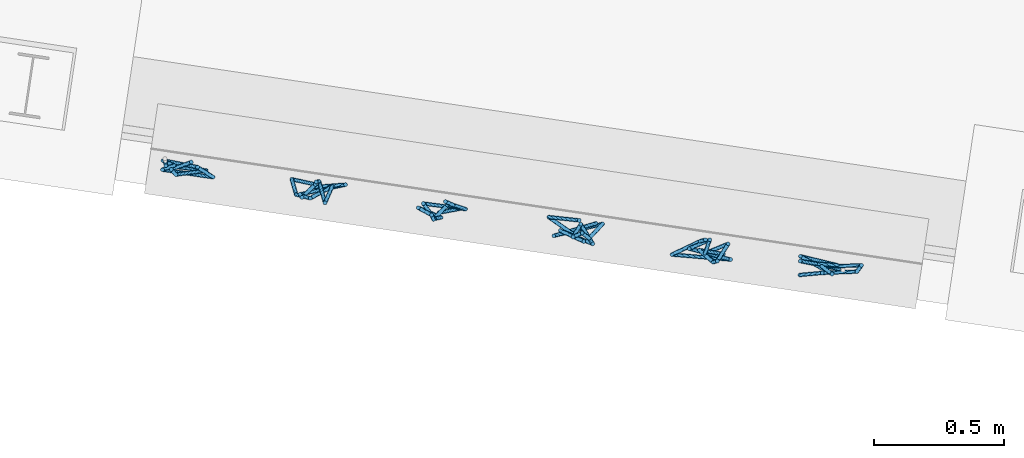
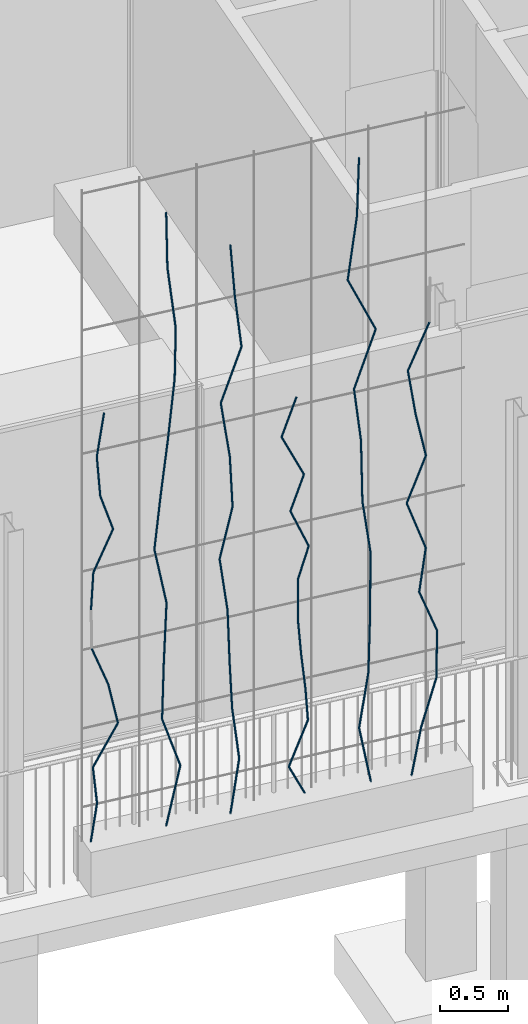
# One storey, part 117 of 143: 64 members, 1 element without a shape of its own.
"""IFC4 building model written with IfcOpenShell, lengths in metres."""

from ifc_helpers import new_model, si_unit, direction, frame, origin_with_axes, place, context, subcontext, project, spatial, circle, extrude, material, material_profile, profile_set, profile_usage, type_object, element, aggregate, save


model = new_model("IFC4")

# Units and contexts
model_context = context("Model", 3, precision=1e-05, world=origin_with_axes(), true_north=direction((0.0, 1.0)))
body_context = subcontext(model_context, "Body", "Model", "MODEL_VIEW")
ifc_project = project(units=[si_unit("VOLUMEUNIT", "CUBIC_METRE"), si_unit("LENGTHUNIT", "METRE"), si_unit("AREAUNIT", "SQUARE_METRE")], contexts=[model_context])

# Site, building, storey
site_placement = place(None, origin_with_axes())
site = spatial("IfcSite", under=ifc_project, at=site_placement, Name="Lares · Rua das Mercês · artigo 4771")
building_placement = place(site_placement, frame((15.0, 9.7, 15.8), z_axis=(0.0, 0.0, 1.0), x_axis=(0.989015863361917, -0.147809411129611, 0.0)))
building = spatial("IfcBuilding", under=site, at=building_placement, Name="Casa Sobreposta")
storey_placement = place(building_placement, origin_with_axes())
storey = spatial("IfcBuildingStorey", under=building, at=storey_placement, Name="00 · Habitação e estacionamento", Elevation=15.8)

# Assembly, members
assembly_placement = place(storey_placement, origin_with_axes())
assembly = element("IfcElementAssembly", 1, at=assembly_placement, inside=storey, Name="Fachada sul e pátio · estrutura e trepadeiras", ObjectType="LIVING_SHADE_TRELLIS", PredefinedType="USERDEFINED")
ifc_material = material(Name="Ramos de trepadeiras", Category="wood")
ifc_material_profile = material_profile(ifc_material, circle(Radius=0.0075))
ifc_profile_set = profile_set([ifc_material_profile], Name="D0.015")
ifc_profile_usage_1 = profile_usage(ifc_profile_set)
member_type = type_object("IfcMemberType", Name="D0.015 / vine_wood", PredefinedType="NOTDEFINED", material=ifc_profile_set)
member_1_placement = place(assembly_placement, frame((4.55197468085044, -1.64925982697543, 0.35), z_axis=(0.129792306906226, -0.0339326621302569, 0.990960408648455), x_axis=(-0.25293691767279, -0.967482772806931, 0.0)))
member_1 = element("IfcMember", 2, at=member_1_placement, type_object=member_type, material=ifc_profile_usage_1, Name="Trepadeiras · ramo", context=body_context, shape_type="SweptSolid", body=[
    extrude(circle(Radius=0.0075), origin_with_axes(), (0.0, 0.0, 1.0), 0.347845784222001),
])
ifc_profile_usage_2 = profile_usage(ifc_profile_set)
member_2_placement = place(assembly_placement, frame((4.59712238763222, -1.66106316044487, 0.694701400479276), z_axis=(-0.119928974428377, -0.0651007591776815, 0.990645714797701), x_axis=(-0.477071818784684, 0.878864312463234, 6.29674832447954e-18)))
member_2 = element("IfcMember", 3, at=member_2_placement, type_object=member_type, material=ifc_profile_usage_2, Name="Trepadeiras · ramo", context=body_context, shape_type="SweptSolid", body=[
    extrude(circle(Radius=0.0075), origin_with_axes(), (0.0, 0.0, 1.0), 0.347956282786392),
])
ifc_profile_usage_3 = profile_usage(ifc_profile_set)
member_3_placement = place(assembly_placement, frame((4.55539234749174, -1.68371537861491, 1.03940280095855), z_axis=(0.495642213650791, 0.000664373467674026, 0.86852654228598), x_axis=(0.00134042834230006, -0.999999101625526, 0.0)))
member_3 = element("IfcMember", 4, at=member_3_placement, type_object=member_type, material=ifc_profile_usage_3, Name="Trepadeiras · ramo", context=body_context, shape_type="SweptSolid", body=[
    extrude(circle(Radius=0.0075), origin_with_axes(), (0.0, 0.0, 1.0), 0.396880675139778),
])
ifc_profile_usage_4 = profile_usage(ifc_profile_set)
member_4_placement = place(assembly_placement, frame((4.75210316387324, -1.68345170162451, 1.38410420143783), z_axis=(-0.183626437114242, 0.0831823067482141, 0.97947028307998), x_axis=(0.41263397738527, 0.910896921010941, 0.0)))
member_4 = element("IfcMember", 5, at=member_4_placement, type_object=member_type, material=ifc_profile_usage_4, Name="Trepadeiras · ramo", context=body_context, shape_type="SweptSolid", body=[
    extrude(circle(Radius=0.0075), origin_with_axes(), (0.0, 0.0, 1.0), 0.351926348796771),
])
ifc_profile_usage_5 = profile_usage(ifc_profile_set)
member_5_placement = place(assembly_placement, frame((4.68748018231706, -1.65417765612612, 1.72880560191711), z_axis=(-0.345167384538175, 0.0158491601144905, 0.938407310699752), x_axis=(0.0458689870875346, 0.998947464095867, -2.35561623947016e-18)))
member_5 = element("IfcMember", 6, at=member_5_placement, type_object=member_type, material=ifc_profile_usage_5, Name="Trepadeiras · ramo", context=body_context, shape_type="SweptSolid", body=[
    extrude(circle(Radius=0.0075), origin_with_axes(), (0.0, 0.0, 1.0), 0.367325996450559),
])
ifc_profile_usage_6 = profile_usage(ifc_profile_set)
member_6_placement = place(assembly_placement, frame((4.55834222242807, -1.64024720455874, 2.41820840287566), z_axis=(0.0218448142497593, -0.0762401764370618, 0.996850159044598), x_axis=(-0.961317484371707, -0.275442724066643, 0.0)))
member_6 = element("IfcMember", 7, at=member_6_placement, type_object=member_type, material=ifc_profile_usage_6, Name="Trepadeiras · ramo", context=body_context, shape_type="SweptSolid", body=[
    extrude(circle(Radius=0.0075), origin_with_axes(), (0.0, 0.0, 1.0), 0.345790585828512),
])
ifc_profile_usage_7 = profile_usage(ifc_profile_set)
member_7_placement = place(assembly_placement, frame((4.56589595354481, -1.66661033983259, 2.76290980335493), z_axis=(0.414696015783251, 0.012751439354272, 0.909870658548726), x_axis=(0.0307343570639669, -0.999527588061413, 0.0)))
member_7 = element("IfcMember", 8, at=member_7_placement, type_object=member_type, material=ifc_profile_usage_7, Name="Trepadeiras · ramo", context=body_context, shape_type="SweptSolid", body=[
    extrude(circle(Radius=0.0075), origin_with_axes(), (0.0, 0.0, 1.0), 0.378846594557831),
])
ifc_profile_usage_8 = profile_usage(ifc_profile_set)
member_8_placement = place(assembly_placement, frame((4.72300212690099, -1.66177950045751, 3.10761120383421), z_axis=(-0.312467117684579, -0.0908269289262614, 0.945576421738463), x_axis=(-0.279123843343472, 0.960255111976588, 0.0)))
member_8 = element("IfcMember", 9, at=member_8_placement, type_object=member_type, material=ifc_profile_usage_8, Name="Trepadeiras · ramo", context=body_context, shape_type="SweptSolid", body=[
    extrude(circle(Radius=0.0075), origin_with_axes(), (0.0, 0.0, 1.0), 0.364541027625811),
])
ifc_profile_usage_9 = profile_usage(ifc_profile_set)
member_9_placement = place(assembly_placement, frame((4.60909504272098, -1.69488964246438, 3.45231260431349), z_axis=(-0.0585484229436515, 0.0497208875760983, 0.997045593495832), x_axis=(0.647306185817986, 0.762230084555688, 0.0)))
member_9 = element("IfcMember", 10, at=member_9_placement, type_object=member_type, material=ifc_profile_usage_9, Name="Trepadeiras · ramo", context=body_context, shape_type="SweptSolid", body=[
    extrude(circle(Radius=0.0075), origin_with_axes(), (0.0, 0.0, 1.0), 0.345722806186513),
])
ifc_profile_usage_10 = profile_usage(ifc_profile_set)
member_10_placement = place(assembly_placement, frame((4.58885351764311, -1.67769999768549, 3.79701400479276), z_axis=(0.203496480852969, 0.111178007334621, 0.97274284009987), x_axis=(0.479450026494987, -0.877569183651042, 0.0)))
member_10 = element("IfcMember", 11, at=member_10_placement, type_object=member_type, material=ifc_profile_usage_10, Name="Trepadeiras · ramo", context=body_context, shape_type="SweptSolid", body=[
    extrude(circle(Radius=0.0075), origin_with_axes(), (0.0, 0.0, 1.0), 0.354360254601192),
])
ifc_profile_usage_11 = profile_usage(ifc_profile_set)
member_11_placement = place(assembly_placement, frame((5.13738922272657, -1.66440915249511, 0.35), z_axis=(0.240432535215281, 0.0544142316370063, 0.96913945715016), x_axis=(0.22073565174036, -0.975333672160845, 0.0)))
member_11 = element("IfcMember", 12, at=member_11_placement, type_object=member_type, material=ifc_profile_usage_11, Name="Trepadeiras · ramo", context=body_context, shape_type="SweptSolid", body=[
    extrude(circle(Radius=0.0075), origin_with_axes(), (0.0, 0.0, 1.0), 0.511992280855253),
])
ifc_profile_usage_12 = profile_usage(ifc_profile_set)
member_12_placement = place(assembly_placement, frame((5.26048882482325, -1.63654948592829, 0.846191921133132), z_axis=(-0.318008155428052, -0.119200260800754, 0.940564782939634), x_axis=(-0.350987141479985, 0.936380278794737, 0.0)))
member_12 = element("IfcMember", 13, at=member_12_placement, type_object=member_type, material=ifc_profile_usage_12, Name="Trepadeiras · ramo", context=body_context, shape_type="SweptSolid", body=[
    extrude(circle(Radius=0.0075), origin_with_axes(), (0.0, 0.0, 1.0), 0.527546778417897),
])
ifc_profile_usage_13 = profile_usage(ifc_profile_set)
member_13_placement = place(assembly_placement, frame((5.09272464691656, -1.6994331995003, 1.34238384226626), z_axis=(0.0181040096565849, -0.0206847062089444, 0.999622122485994), x_axis=(0.999836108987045, 0.000374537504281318, -0.0181001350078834)))
member_13 = element("IfcMember", 14, at=member_13_placement, type_object=member_type, material=ifc_profile_usage_13, Name="Trepadeiras · ramo", context=body_context, shape_type="SweptSolid", body=[
    extrude(circle(Radius=0.0075), origin_with_axes(), (0.0, 0.0, 1.0), 0.49637949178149),
])
ifc_profile_usage_14 = profile_usage(ifc_profile_set)
member_14_placement = place(assembly_placement, frame((5.10171110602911, -1.70970066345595, 1.8385757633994), z_axis=(0.0881972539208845, 0.113613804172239, 0.989602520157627), x_axis=(0.789921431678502, -0.613208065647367, 0.0)))
member_14 = element("IfcMember", 15, at=member_14_placement, type_object=member_type, material=ifc_profile_usage_14, Name="Trepadeiras · ramo", context=body_context, shape_type="SweptSolid", body=[
    extrude(circle(Radius=0.0075), origin_with_axes(), (0.0, 0.0, 1.0), 0.5014052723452),
])
ifc_profile_usage_15 = profile_usage(ifc_profile_set)
member_15_placement = place(assembly_placement, frame((5.14593367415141, -1.65273410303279, 2.33476768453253), z_axis=(-0.18412719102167, 0.0119105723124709, 0.982830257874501), x_axis=(0.0645517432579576, 0.997914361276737, 0.0)))
member_15 = element("IfcMember", 16, at=member_15_placement, type_object=member_type, material=ifc_profile_usage_15, Name="Trepadeiras · ramo", context=body_context, shape_type="SweptSolid", body=[
    extrude(circle(Radius=0.0075), origin_with_axes(), (0.0, 0.0, 1.0), 0.50486024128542),
])
ifc_profile_usage_16 = profile_usage(ifc_profile_set)
member_16_placement = place(assembly_placement, frame((5.052975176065, -1.64672092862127, 2.83095960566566), z_axis=(0.0509410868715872, -0.111318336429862, 0.992478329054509), x_axis=(-0.909311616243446, -0.416115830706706, 0.0)))
member_16 = element("IfcMember", 17, at=member_16_placement, type_object=member_type, material=ifc_profile_usage_16, Name="Trepadeiras · ramo", context=body_context, shape_type="SweptSolid", body=[
    extrude(circle(Radius=0.0075), origin_with_axes(), (0.0, 0.0, 1.0), 0.499952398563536),
])
ifc_profile_usage_17 = profile_usage(ifc_profile_set)
member_17_placement = place(assembly_placement, frame((5.07844329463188, -1.70237479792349, 3.32715152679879), z_axis=(0.111662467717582, -0.0113171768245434, 0.993681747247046), x_axis=(-0.100835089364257, -0.994903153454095, 0.0)))
member_17 = element("IfcMember", 18, at=member_17_placement, type_object=member_type, material=ifc_profile_usage_17, Name="Trepadeiras · ramo", context=body_context, shape_type="SweptSolid", body=[
    extrude(circle(Radius=0.0075), origin_with_axes(), (0.0, 0.0, 1.0), 0.499346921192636),
])
ifc_profile_usage_18 = profile_usage(ifc_profile_set)
member_18_placement = place(assembly_placement, frame((5.13420160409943, -1.70802599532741, 3.82334344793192), z_axis=(0.150889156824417, 0.111712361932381, 0.982218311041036), x_axis=(0.595030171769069, -0.803703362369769, 0.0)))
member_18 = element("IfcMember", 19, at=member_18_placement, type_object=member_type, material=ifc_profile_usage_18, Name="Trepadeiras · ramo", context=body_context, shape_type="SweptSolid", body=[
    extrude(circle(Radius=0.0075), origin_with_axes(), (0.0, 0.0, 1.0), 0.505174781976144),
])
ifc_profile_usage_19 = profile_usage(ifc_profile_set)
member_19_placement = place(assembly_placement, frame((5.21042700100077, -1.65159172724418, 4.31953536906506), z_axis=(-0.0354680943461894, -0.131438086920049, 0.99068968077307), x_axis=(-0.965466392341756, 0.260527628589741, 0.0)))
member_19 = element("IfcMember", 20, at=member_19_placement, type_object=member_type, material=ifc_profile_usage_19, Name="Trepadeiras · ramo", context=body_context, shape_type="SweptSolid", body=[
    extrude(circle(Radius=0.0075), origin_with_axes(), (0.0, 0.0, 1.0), 0.500855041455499),
])
ifc_profile_usage_20 = profile_usage(ifc_profile_set)
member_20_placement = place(assembly_placement, frame((5.19266262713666, -1.71742315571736, 4.81572729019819), z_axis=(-0.0686747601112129, 0.155818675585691, 0.985395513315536), x_axis=(0.915066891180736, 0.403302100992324, 0.0)))
member_20 = element("IfcMember", 21, at=member_20_placement, type_object=member_type, material=ifc_profile_usage_20, Name="Trepadeiras · ramo", context=body_context, shape_type="SweptSolid", body=[
    extrude(circle(Radius=0.0075), origin_with_axes(), (0.0, 0.0, 1.0), 0.503545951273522),
])
ifc_profile_usage_21 = profile_usage(ifc_profile_set)
member_21_placement = place(assembly_placement, frame((5.15808172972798, -1.63896129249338, 5.31191921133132), z_axis=(-0.0221663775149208, -0.00749263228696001, 0.999726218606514), x_axis=(0.999754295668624, -0.000166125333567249, 0.0221657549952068)))
member_21 = element("IfcMember", 22, at=member_21_placement, type_object=member_type, material=ifc_profile_usage_21, Name="Trepadeiras · ramo", context=body_context, shape_type="SweptSolid", body=[
    extrude(circle(Radius=0.0075), origin_with_axes(), (0.0, 0.0, 1.0), 0.496327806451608),
])
ifc_profile_usage_22 = profile_usage(ifc_profile_set)
member_22_placement = place(assembly_placement, frame((5.63220136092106, -1.68990743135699, 0.35), z_axis=(0.173486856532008, 0.0605084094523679, 0.982975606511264), x_axis=(0.32932236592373, -0.944217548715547, 0.0)))
member_22 = element("IfcMember", 23, at=member_22_placement, type_object=member_type, material=ifc_profile_usage_22, Name="Trepadeiras · ramo", context=body_context, shape_type="SweptSolid", body=[
    extrude(circle(Radius=0.0075), origin_with_axes(), (0.0, 0.0, 1.0), 0.466118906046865),
])
ifc_profile_usage_23 = profile_usage(ifc_profile_set)
member_23_placement = place(assembly_placement, frame((5.71306686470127, -1.66170331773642, 0.808183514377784), z_axis=(-0.115708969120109, 0.0131407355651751, 0.993196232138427), x_axis=(0.1128417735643, 0.993612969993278, 0.0)))
member_23 = element("IfcMember", 24, at=member_23_placement, type_object=member_type, material=ifc_profile_usage_23, Name="Trepadeiras · ramo", context=body_context, shape_type="SweptSolid", body=[
    extrude(circle(Radius=0.0075), origin_with_axes(), (0.0, 0.0, 1.0), 0.461322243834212),
])
ifc_profile_usage_24 = profile_usage(ifc_profile_set)
member_24_placement = place(assembly_placement, frame((5.65968774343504, -1.65564120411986, 1.26636702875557), z_axis=(-0.0956717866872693, -0.135853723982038, 0.986098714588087), x_axis=(-0.817605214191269, 0.575779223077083, 0.0)))
member_24 = element("IfcMember", 25, at=member_24_placement, type_object=member_type, material=ifc_profile_usage_24, Name="Trepadeiras · ramo", context=body_context, shape_type="SweptSolid", body=[
    extrude(circle(Radius=0.0075), origin_with_axes(), (0.0, 0.0, 1.0), 0.464642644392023),
])
ifc_profile_usage_25 = profile_usage(ifc_profile_set)
member_25_placement = place(assembly_placement, frame((5.61523455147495, -1.71876463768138, 1.72455054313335), z_axis=(-0.0217451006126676, 0.0344773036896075, 0.999168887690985), x_axis=(0.999763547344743, 0.000749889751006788, 0.0217321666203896)))
member_25 = element("IfcMember", 26, at=member_25_placement, type_object=member_type, material=ifc_profile_usage_25, Name="Trepadeiras · ramo", context=body_context, shape_type="SweptSolid", body=[
    extrude(circle(Radius=0.0075), origin_with_axes(), (0.0, 0.0, 1.0), 0.458564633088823),
])
ifc_profile_usage_26 = profile_usage(ifc_profile_set)
member_26_placement = place(assembly_placement, frame((5.60526301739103, -1.70295456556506, 2.18273405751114), z_axis=(-0.118138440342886, 0.0429210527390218, 0.992069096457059), x_axis=(0.341473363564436, 0.939891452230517, 0.0)))
member_26 = element("IfcMember", 27, at=member_26_placement, type_object=member_type, material=ifc_profile_usage_26, Name="Trepadeiras · ramo", context=body_context, shape_type="SweptSolid", body=[
    extrude(circle(Radius=0.0075), origin_with_axes(), (0.0, 0.0, 1.0), 0.461846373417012),
])
ifc_profile_usage_27 = profile_usage(ifc_profile_set)
member_27_placement = place(assembly_placement, frame((5.55070120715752, -1.6831316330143, 2.64091757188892), z_axis=(0.19709303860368, -0.0505499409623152, 0.979080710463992), x_axis=(-0.248436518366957, -0.968648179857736, 0.0)))
member_27 = element("IfcMember", 28, at=member_27_placement, type_object=member_type, material=ifc_profile_usage_27, Name="Trepadeiras · ramo", context=body_context, shape_type="SweptSolid", body=[
    extrude(circle(Radius=0.0075), origin_with_axes(), (0.0, 0.0, 1.0), 0.467973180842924),
])
ifc_profile_usage_28 = profile_usage(ifc_profile_set)
member_28_placement = place(assembly_placement, frame((5.64293546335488, -1.70678764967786, 3.0991010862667), z_axis=(-0.054053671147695, -0.0197998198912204, 0.998341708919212), x_axis=(-0.343950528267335, 0.938987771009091, 0.0)))
member_28 = element("IfcMember", 29, at=member_28_placement, type_object=member_type, material=ifc_profile_usage_28, Name="Trepadeiras · ramo", context=body_context, shape_type="SweptSolid", body=[
    extrude(circle(Radius=0.0075), origin_with_axes(), (0.0, 0.0, 1.0), 0.458944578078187),
])
ifc_profile_usage_29 = profile_usage(ifc_profile_set)
member_29_placement = place(assembly_placement, frame((5.61812782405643, -1.71587466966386, 3.55728460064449), z_axis=(-0.109531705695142, 0.111331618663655, 0.987728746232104), x_axis=(0.712845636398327, 0.701320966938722, 0.0)))
member_29 = element("IfcMember", 30, at=member_29_placement, type_object=member_type, material=ifc_profile_usage_29, Name="Trepadeiras · ramo", context=body_context, shape_type="SweptSolid", body=[
    extrude(circle(Radius=0.0075), origin_with_axes(), (0.0, 0.0, 1.0), 0.463875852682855),
])
ifc_profile_usage_30 = profile_usage(ifc_profile_set)
member_30_placement = place(assembly_placement, frame((5.56731871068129, -1.6642306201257, 4.01546811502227), z_axis=(0.336572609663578, 0.00606468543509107, 0.941637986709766), x_axis=(0.0180160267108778, -0.999837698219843, 0.0)))
member_30 = element("IfcMember", 31, at=member_30_placement, type_object=member_type, material=ifc_profile_usage_30, Name="Trepadeiras · ramo", context=body_context, shape_type="SweptSolid", body=[
    extrude(circle(Radius=0.0075), origin_with_axes(), (0.0, 0.0, 1.0), 0.48658138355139),
])
ifc_profile_usage_31 = profile_usage(ifc_profile_set)
member_31_placement = place(assembly_placement, frame((5.73108867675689, -1.66127965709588, 4.47365162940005), z_axis=(-0.106013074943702, 0.0180386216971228, 0.994201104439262), x_axis=(0.167743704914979, 0.985830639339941, 0.0)))
member_31 = element("IfcMember", 32, at=member_31_placement, type_object=member_type, material=ifc_profile_usage_31, Name="Trepadeiras · ramo", context=body_context, shape_type="SweptSolid", body=[
    extrude(circle(Radius=0.0075), origin_with_axes(), (0.0, 0.0, 1.0), 0.460855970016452),
])
ifc_profile_usage_32 = profile_usage(ifc_profile_set)
member_32_placement = place(assembly_placement, frame((5.68223191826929, -1.6529664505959, 4.93183514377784), z_axis=(-0.0697881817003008, 0.0188845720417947, 0.997383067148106), x_axis=(0.261204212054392, 0.965283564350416, 0.0)))
member_32 = element("IfcMember", 33, at=member_32_placement, type_object=member_type, material=ifc_profile_usage_32, Name="Trepadeiras · ramo", context=body_context, shape_type="SweptSolid", body=[
    extrude(circle(Radius=0.0075), origin_with_axes(), (0.0, 0.0, 1.0), 0.459385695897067),
])
ifc_profile_usage_33 = profile_usage(ifc_profile_set)
member_33_placement = place(assembly_placement, frame((6.23679718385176, -1.64103048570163, 0.35), z_axis=(-0.42416376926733, -0.196770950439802, 0.883949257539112), x_axis=(-0.420825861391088, 0.90714144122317, 0.0)))
member_33 = element("IfcMember", 34, at=member_33_placement, type_object=member_type, material=ifc_profile_usage_33, Name="Trepadeiras · ramo", context=body_context, shape_type="SweptSolid", body=[
    extrude(circle(Radius=0.0075), origin_with_axes(), (0.0, 0.0, 1.0), 0.364794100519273),
])
ifc_profile_usage_34 = profile_usage(ifc_profile_set)
member_34_placement = place(assembly_placement, frame((6.08206474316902, -1.71281136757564, 0.67245947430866), z_axis=(0.475917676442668, 0.19443061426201, 0.857729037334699), x_axis=(0.378194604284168, -0.925726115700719, 0.0)))
member_34 = element("IfcMember", 35, at=member_34_placement, type_object=member_type, material=ifc_profile_usage_34, Name="Trepadeiras · ramo", context=body_context, shape_type="SweptSolid", body=[
    extrude(circle(Radius=0.0075), origin_with_axes(), (0.0, 0.0, 1.0), 0.375945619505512),
])
ifc_profile_usage_35 = profile_usage(ifc_profile_set)
member_35_placement = place(assembly_placement, frame((6.26098390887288, -1.63971602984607, 0.994918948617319), z_axis=(-0.130658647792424, -0.188661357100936, 0.973311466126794), x_axis=(-0.822096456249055, 0.569348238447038, 0.0)))
member_35 = element("IfcMember", 36, at=member_35_placement, type_object=member_type, material=ifc_profile_usage_35, Name="Trepadeiras · ramo", context=body_context, shape_type="SweptSolid", body=[
    extrude(circle(Radius=0.0075), origin_with_axes(), (0.0, 0.0, 1.0), 0.331301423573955),
])
ifc_profile_usage_36 = profile_usage(ifc_profile_set)
member_36_placement = place(assembly_placement, frame((6.21769651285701, -1.702219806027, 1.31737842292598), z_axis=(-0.0893962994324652, 0.0502500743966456, 0.994727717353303), x_axis=(0.489999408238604, 0.871722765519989, 0.0)))
member_36 = element("IfcMember", 37, at=member_36_placement, type_object=member_type, material=ifc_profile_usage_36, Name="Trepadeiras · ramo", context=body_context, shape_type="SweptSolid", body=[
    extrude(circle(Radius=0.0075), origin_with_axes(), (0.0, 0.0, 1.0), 0.324168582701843),
])
ifc_profile_usage_37 = profile_usage(ifc_profile_set)
member_37_placement = place(assembly_placement, frame((6.18871704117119, -1.68593031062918, 1.63983789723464), z_axis=(-0.100606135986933, -0.0629655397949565, 0.992931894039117), x_axis=(-0.53052417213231, 0.847669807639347, 0.0)))
member_37 = element("IfcMember", 38, at=member_37_placement, type_object=member_type, material=ifc_profile_usage_37, Name="Trepadeiras · ramo", context=body_context, shape_type="SweptSolid", body=[
    extrude(circle(Radius=0.0075), origin_with_axes(), (0.0, 0.0, 1.0), 0.324754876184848),
])
ifc_profile_usage_38 = profile_usage(ifc_profile_set)
member_38_placement = place(assembly_placement, frame((6.15604470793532, -1.70637867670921, 1.9622973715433), z_axis=(0.068330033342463, 0.161303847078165, 0.984536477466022), x_axis=(0.920790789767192, -0.390056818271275, 0.0)))
member_38 = element("IfcMember", 39, at=member_38_placement, type_object=member_type, material=ifc_profile_usage_38, Name="Trepadeiras · ramo", context=body_context, shape_type="SweptSolid", body=[
    extrude(circle(Radius=0.0075), origin_with_axes(), (0.0, 0.0, 1.0), 0.327524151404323),
])
ifc_profile_usage_39 = profile_usage(ifc_profile_set)
member_39_placement = place(assembly_placement, frame((6.17842444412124, -1.65354777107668, 2.28475684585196), z_axis=(0.170380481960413, -0.202410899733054, 0.964365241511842), x_axis=(-0.765043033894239, -0.64397915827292, 0.0)))
member_39 = element("IfcMember", 40, at=member_39_placement, type_object=member_type, material=ifc_profile_usage_39, Name="Trepadeiras · ramo", context=body_context, shape_type="SweptSolid", body=[
    extrude(circle(Radius=0.0075), origin_with_axes(), (0.0, 0.0, 1.0), 0.334374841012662),
])
ifc_profile_usage_40 = profile_usage(ifc_profile_set)
member_40_placement = place(assembly_placement, frame((6.23539539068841, -1.72122888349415, 2.60721632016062), z_axis=(-0.376155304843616, 0.0917282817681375, 0.922004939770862), x_axis=(0.236914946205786, 0.971530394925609, 0.0)))
member_40 = element("IfcMember", 41, at=member_40_placement, type_object=member_type, material=ifc_profile_usage_40, Name="Trepadeiras · ramo", context=body_context, shape_type="SweptSolid", body=[
    extrude(circle(Radius=0.0075), origin_with_axes(), (0.0, 0.0, 1.0), 0.349737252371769),
])
ifc_profile_usage_41 = profile_usage(ifc_profile_set)
member_41_placement = place(assembly_placement, frame((6.10383986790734, -1.68914808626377, 2.92967579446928), z_axis=(0.282893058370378, -0.0830680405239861, 0.955547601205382), x_axis=(-0.281742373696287, -0.959490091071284, 0.0)))
member_41 = element("IfcMember", 42, at=member_41_placement, type_object=member_type, material=ifc_profile_usage_41, Name="Trepadeiras · ramo", context=body_context, shape_type="SweptSolid", body=[
    extrude(circle(Radius=0.0075), origin_with_axes(), (0.0, 0.0, 1.0), 0.337460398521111),
])
ifc_profile_usage_42 = profile_usage(ifc_profile_set)
member_42_placement = place(assembly_placement, frame((6.19930507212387, -1.71718026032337, 3.25213526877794), z_axis=(-0.406099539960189, 0.201123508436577, 0.891421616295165), x_axis=(0.443809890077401, 0.896120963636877, 0.0)))
member_42 = element("IfcMember", 43, at=member_42_placement, type_object=member_type, material=ifc_profile_usage_42, Name="Trepadeiras · ramo", context=body_context, shape_type="SweptSolid", body=[
    extrude(circle(Radius=0.0075), origin_with_axes(), (0.0, 0.0, 1.0), 0.361736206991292),
])
ifc_profile_usage_43 = profile_usage(ifc_profile_set)
member_43_placement = place(assembly_placement, frame((6.05240416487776, -1.64442660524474, 3.5745947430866), z_axis=(0.344211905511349, 0.0140146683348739, 0.938787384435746), x_axis=(0.0406815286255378, -0.999172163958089, 0.0)))
member_43 = element("IfcMember", 44, at=member_43_placement, type_object=member_type, material=ifc_profile_usage_43, Name="Trepadeiras · ramo", context=body_context, shape_type="SweptSolid", body=[
    extrude(circle(Radius=0.0075), origin_with_axes(), (0.0, 0.0, 1.0), 0.343485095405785),
])
ifc_profile_usage_44 = profile_usage(ifc_profile_set)
member_44_placement = place(assembly_placement, frame((6.73808430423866, -1.68561583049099, 0.35), z_axis=(-0.181547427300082, 0.00211914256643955, 0.983379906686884), x_axis=(0.0116718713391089, 0.999931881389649, 0.0)))
member_44 = element("IfcMember", 45, at=member_44_placement, type_object=member_type, material=ifc_profile_usage_44, Name="Trepadeiras · ramo", context=body_context, shape_type="SweptSolid", body=[
    extrude(circle(Radius=0.0075), origin_with_axes(), (0.0, 0.0, 1.0), 0.513770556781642),
])
ifc_profile_usage_45 = profile_usage(ifc_profile_set)
member_45_placement = place(assembly_placement, frame((6.64481058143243, -1.68452707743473, 0.8552316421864), z_axis=(0.114898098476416, -0.0745573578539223, 0.990575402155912), x_axis=(-0.544339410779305, -0.838865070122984, -1.2545762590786e-17)))
member_45 = element("IfcMember", 46, at=member_45_placement, type_object=member_type, material=ifc_profile_usage_45, Name="Trepadeiras · ramo", context=body_context, shape_type="SweptSolid", body=[
    extrude(circle(Radius=0.0075), origin_with_axes(), (0.0, 0.0, 1.0), 0.510038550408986),
])
ifc_profile_usage_46 = profile_usage(ifc_profile_set)
member_46_placement = place(assembly_placement, frame((6.70341304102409, -1.72255420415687, 1.3604632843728), z_axis=(0.0306536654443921, 0.0133643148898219, 0.999440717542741), x_axis=(0.999530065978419, -0.000409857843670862, -0.0306509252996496)))
member_46 = element("IfcMember", 47, at=member_46_placement, type_object=member_type, material=ifc_profile_usage_46, Name="Trepadeiras · ramo", context=body_context, shape_type="SweptSolid", body=[
    extrude(circle(Radius=0.0075), origin_with_axes(), (0.0, 0.0, 1.0), 0.505514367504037),
])
ifc_profile_usage_47 = profile_usage(ifc_profile_set)
member_47_placement = place(assembly_placement, frame((6.71890890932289, -1.71579835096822, 1.8656949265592), z_axis=(0.0613470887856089, 0.139942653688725, 0.988257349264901), x_axis=(0.915863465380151, -0.40148986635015, -1.12196920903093e-17)))
member_47 = element("IfcMember", 48, at=member_47_placement, type_object=member_type, material=ifc_profile_usage_47, Name="Trepadeiras · ramo", context=body_context, shape_type="SweptSolid", body=[
    extrude(circle(Radius=0.0075), origin_with_axes(), (0.0, 0.0, 1.0), 0.511234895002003),
])
ifc_profile_usage_48 = profile_usage(ifc_profile_set)
member_48_placement = place(assembly_placement, frame((6.75027168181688, -1.64425478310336, 2.3709265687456), z_axis=(-0.160372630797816, -0.0941871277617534, 0.982552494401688), x_axis=(-0.506421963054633, 0.862285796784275, 0.0)))
member_48 = element("IfcMember", 49, at=member_48_placement, type_object=member_type, material=ifc_profile_usage_48, Name="Trepadeiras · ramo", context=body_context, shape_type="SweptSolid", body=[
    extrude(circle(Radius=0.0075), origin_with_axes(), (0.0, 0.0, 1.0), 0.514203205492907),
])
ifc_profile_usage_49 = profile_usage(ifc_profile_set)
member_49_placement = place(assembly_placement, frame((6.66780756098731, -1.69268610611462, 2.876158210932), z_axis=(0.0197044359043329, 0.105077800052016, 0.994268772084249), x_axis=(0.982868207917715, -0.18430975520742, 0.0)))
member_49 = element("IfcMember", 50, at=member_49_placement, type_object=member_type, material=ifc_profile_usage_49, Name="Trepadeiras · ramo", context=body_context, shape_type="SweptSolid", body=[
    extrude(circle(Radius=0.0075), origin_with_axes(), (0.0, 0.0, 1.0), 0.508143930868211),
])
ifc_profile_usage_50 = profile_usage(ifc_profile_set)
member_50_placement = place(assembly_placement, frame((6.67782025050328, -1.63929145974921, 3.3813898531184), z_axis=(-0.141774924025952, -0.0883735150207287, 0.985946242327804), x_axis=(-0.528983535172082, 0.848632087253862, 0.0)))
member_50 = element("IfcMember", 51, at=member_50_placement, type_object=member_type, material=ifc_profile_usage_50, Name="Trepadeiras · ramo", context=body_context, shape_type="SweptSolid", body=[
    extrude(circle(Radius=0.0075), origin_with_axes(), (0.0, 0.0, 1.0), 0.512433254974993),
])
ifc_profile_usage_51 = profile_usage(ifc_profile_set)
member_51_placement = place(assembly_placement, frame((6.60517006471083, -1.68457698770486, 3.8866214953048), z_axis=(0.307758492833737, -0.0338588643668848, 0.950861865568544), x_axis=(-0.109357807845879, -0.99400244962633, 0.0)))
member_51 = element("IfcMember", 52, at=member_51_placement, type_object=member_type, material=ifc_profile_usage_51, Name="Trepadeiras · ramo", context=body_context, shape_type="SweptSolid", body=[
    extrude(circle(Radius=0.0075), origin_with_axes(), (0.0, 0.0, 1.0), 0.531340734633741),
])
ifc_profile_usage_52 = profile_usage(ifc_profile_set)
member_52_placement = place(assembly_placement, frame((6.76869468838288, -1.70256758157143, 4.3918531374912), z_axis=(-0.408006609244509, -0.0258958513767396, 0.91261164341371), x_axis=(-0.063341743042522, 0.997991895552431, 0.0)))
member_52 = element("IfcMember", 53, at=member_52_placement, type_object=member_type, material=ifc_profile_usage_52, Name="Trepadeiras · ramo", context=body_context, shape_type="SweptSolid", body=[
    extrude(circle(Radius=0.0075), origin_with_axes(), (0.0, 0.0, 1.0), 0.553610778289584),
])
ifc_profile_usage_53 = profile_usage(ifc_profile_set)
member_53_placement = place(assembly_placement, frame((6.54281783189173, -1.71690380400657, 4.8970847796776), z_axis=(0.191503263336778, 0.128508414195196, 0.973042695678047), x_axis=(0.557217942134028, -0.830366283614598, 0.0)))
member_53 = element("IfcMember", 54, at=member_53_placement, type_object=member_type, material=ifc_profile_usage_53, Name="Trepadeiras · ramo", context=body_context, shape_type="SweptSolid", body=[
    extrude(circle(Radius=0.0075), origin_with_axes(), (0.0, 0.0, 1.0), 0.519228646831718),
])
ifc_profile_usage_54 = profile_usage(ifc_profile_set)
member_54_placement = place(assembly_placement, frame((6.64225181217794, -1.65017855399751, 5.402316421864), z_axis=(0.0377144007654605, 0.0174593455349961, 0.999136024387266), x_axis=(0.999288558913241, -0.000658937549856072, -0.0377086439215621)))
member_54 = element("IfcMember", 55, at=member_54_placement, type_object=member_type, material=ifc_profile_usage_54, Name="Trepadeiras · ramo", context=body_context, shape_type="SweptSolid", body=[
    extrude(circle(Radius=0.0075), origin_with_axes(), (0.0, 0.0, 1.0), 0.505668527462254),
])
ifc_profile_usage_55 = profile_usage(ifc_profile_set)
member_55_placement = place(assembly_placement, frame((7.0409717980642, -1.72179415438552, 0.35), z_axis=(0.206799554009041, 0.0504590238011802, 0.977081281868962), x_axis=(0.237045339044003, -0.971498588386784, 0.0)))
member_55 = element("IfcMember", 56, at=member_55_placement, type_object=member_type, material=ifc_profile_usage_55, Name="Trepadeiras · ramo", context=body_context, shape_type="SweptSolid", body=[
    extrude(circle(Radius=0.0075), origin_with_axes(), (0.0, 0.0, 1.0), 0.40704822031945),
])
ifc_profile_usage_56 = profile_usage(ifc_profile_set)
member_56_placement = place(assembly_placement, frame((7.12514918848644, -1.7012548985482, 0.747719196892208), z_axis=(0.311542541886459, 0.0586496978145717, 0.948420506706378), x_axis=(0.185006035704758, -0.982737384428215, 0.0)))
member_56 = element("IfcMember", 57, at=member_56_placement, type_object=member_type, material=ifc_profile_usage_56, Name="Trepadeiras · ramo", context=body_context, shape_type="SweptSolid", body=[
    extrude(circle(Radius=0.0075), origin_with_axes(), (0.0, 0.0, 1.0), 0.419349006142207),
])
ifc_profile_usage_57 = profile_usage(ifc_profile_set)
member_57_placement = place(assembly_placement, frame((7.25579424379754, -1.67666020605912, 1.14543839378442), z_axis=(0.0355192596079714, 0.0656197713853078, 0.997212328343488), x_axis=(0.879431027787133, -0.476026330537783, 0.0)))
member_57 = element("IfcMember", 58, at=member_57_placement, type_object=member_type, material=ifc_profile_usage_57, Name="Trepadeiras · ramo", context=body_context, shape_type="SweptSolid", body=[
    extrude(circle(Radius=0.0075), origin_with_axes(), (0.0, 0.0, 1.0), 0.398831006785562),
])
ifc_profile_usage_58 = profile_usage(ifc_profile_set)
member_58_placement = place(assembly_placement, frame((7.26996042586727, -1.65048900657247, 1.54315759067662), z_axis=(-0.352017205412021, -0.0610474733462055, 0.934000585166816), x_axis=(-0.170871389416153, 0.985293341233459, 0.0)))
member_58 = element("IfcMember", 59, at=member_58_placement, type_object=member_type, material=ifc_profile_usage_58, Name="Trepadeiras · ramo", context=body_context, shape_type="SweptSolid", body=[
    extrude(circle(Radius=0.0075), origin_with_axes(), (0.0, 0.0, 1.0), 0.425823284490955),
])
ifc_profile_usage_59 = profile_usage(ifc_profile_set)
member_59_placement = place(assembly_placement, frame((7.12006330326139, -1.67648444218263, 1.94087678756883), z_axis=(0.106642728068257, -0.0582669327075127, 0.992588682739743), x_axis=(-0.479474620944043, -0.877555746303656, 0.0)))
member_59 = element("IfcMember", 60, at=member_59_placement, type_object=member_type, material=ifc_profile_usage_59, Name="Trepadeiras · ramo", context=body_context, shape_type="SweptSolid", body=[
    extrude(circle(Radius=0.0075), origin_with_axes(), (0.0, 0.0, 1.0), 0.400688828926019),
])
ifc_profile_usage_60 = profile_usage(ifc_profile_set)
member_60_placement = place(assembly_placement, frame((7.16279385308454, -1.69983135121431, 2.33859598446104), z_axis=(-0.309633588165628, 0.117325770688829, 0.943589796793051), x_axis=(0.35433355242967, 0.935119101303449, 0.0)))
member_60 = element("IfcMember", 61, at=member_60_placement, type_object=member_type, material=ifc_profile_usage_60, Name="Trepadeiras · ramo", context=body_context, shape_type="SweptSolid", body=[
    extrude(circle(Radius=0.0075), origin_with_axes(), (0.0, 0.0, 1.0), 0.421495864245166),
])
ifc_profile_usage_61 = profile_usage(ifc_profile_set)
member_61_placement = place(assembly_placement, frame((7.03228457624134, -1.6503790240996, 2.73631518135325), z_axis=(0.34367232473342, -0.0309587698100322, 0.938579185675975), x_axis=(-0.0897189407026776, -0.99596712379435, 0.0)))
member_61 = element("IfcMember", 62, at=member_61_placement, type_object=member_type, material=ifc_profile_usage_61, Name="Trepadeiras · ramo", context=body_context, shape_type="SweptSolid", body=[
    extrude(circle(Radius=0.0075), origin_with_axes(), (0.0, 0.0, 1.0), 0.423746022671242),
])
ifc_profile_usage_62 = profile_usage(ifc_profile_set)
member_62_placement = place(assembly_placement, frame((7.1779143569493, -1.66349767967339, 3.13403437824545), z_axis=(-0.206255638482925, -0.0155963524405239, 0.978373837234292), x_axis=(-0.0754013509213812, 0.997153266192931, 0.0)))
member_62 = element("IfcMember", 63, at=member_62_placement, type_object=member_type, material=ifc_profile_usage_62, Name="Trepadeiras · ramo", context=body_context, shape_type="SweptSolid", body=[
    extrude(circle(Radius=0.0075), origin_with_axes(), (0.0, 0.0, 1.0), 0.406510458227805),
])
ifc_profile_usage_63 = profile_usage(ifc_profile_set)
member_63_placement = place(assembly_placement, frame((7.09406928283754, -1.66983776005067, 3.53175357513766), z_axis=(-0.148424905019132, 0.0027206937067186, 0.988919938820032), x_axis=(0.0183273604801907, 0.999832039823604, 0.0)))
member_63 = element("IfcMember", 64, at=member_63_placement, type_object=member_type, material=ifc_profile_usage_63, Name="Trepadeiras · ramo", context=body_context, shape_type="SweptSolid", body=[
    extrude(circle(Radius=0.0075), origin_with_axes(), (0.0, 0.0, 1.0), 0.402175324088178),
])
ifc_profile_usage_64 = profile_usage(ifc_profile_set)
member_64_placement = place(assembly_placement, frame((7.03437644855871, -1.66874356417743, 3.92947277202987), z_axis=(0.384388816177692, -0.0208349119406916, 0.92293615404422), x_axis=(-0.0541232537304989, -0.998534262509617, 0.0)))
member_64 = element("IfcMember", 65, at=member_64_placement, type_object=member_type, material=ifc_profile_usage_64, Name="Trepadeiras · ramo", context=body_context, shape_type="SweptSolid", body=[
    extrude(circle(Radius=0.0075), origin_with_axes(), (0.0, 0.0, 1.0), 0.430928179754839),
])
aggregate(assembly, [member_1, member_2, member_3, member_4, member_5, member_6, member_7, member_8, member_9, member_10, member_11, member_12, member_13, member_14, member_15, member_16, member_17, member_18, member_19, member_20, member_21, member_22, member_23, member_24, member_25, member_26, member_27, member_28, member_29, member_30, member_31, member_32, member_33, member_34, member_35, member_36, member_37, member_38, member_39, member_40, member_41, member_42, member_43, member_44, member_45, member_46, member_47, member_48, member_49, member_50, member_51, member_52, member_53, member_54, member_55, member_56, member_57, member_58, member_59, member_60, member_61, member_62, member_63, member_64])

save(model, "model.ifc")
